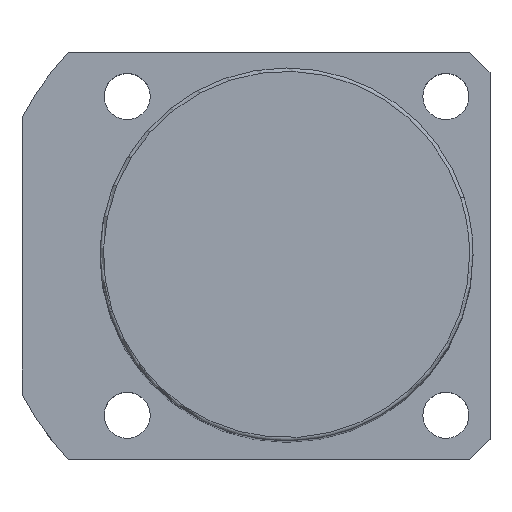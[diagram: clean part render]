
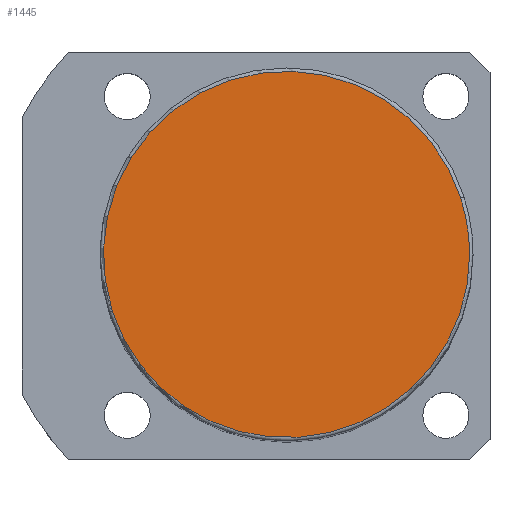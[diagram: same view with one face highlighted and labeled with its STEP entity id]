
A CAD part, top view. The second image highlights one B-rep face of the part: STEP entity #1445.
In plain terms, the highlighted planar face has unit normal (0, 0, 1).
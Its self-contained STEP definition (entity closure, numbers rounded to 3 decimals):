
#1378=CARTESIAN_POINT('',(25.679,8.343,131.0));
#1379=VERTEX_POINT('',#1378);
#1397=CARTESIAN_POINT('',(-25.679,-8.343,131.0));
#1398=VERTEX_POINT('',#1397);
#1406=CARTESIAN_POINT('',(0.0,0.0,131.0));
#1407=DIRECTION('',(0.0,0.0,1.0));
#1408=DIRECTION('',(1.0,0.0,0.0));
#1409=AXIS2_PLACEMENT_3D('',#1406,#1407,#1408);
#1410=CIRCLE('',#1409,27.0);
#1411=EDGE_CURVE('no 1908',#1379,#1398,#1410,.T.);
#1421=CARTESIAN_POINT('',(27.0,0.0,131.0));
#1422=VERTEX_POINT('',#1421);
#1423=CARTESIAN_POINT('',(0.0,0.0,131.0));
#1424=DIRECTION('',(0.0,0.0,1.0));
#1425=DIRECTION('',(1.0,0.0,0.0));
#1426=AXIS2_PLACEMENT_3D('',#1423,#1424,#1425);
#1427=CIRCLE('',#1426,27.0);
#1428=EDGE_CURVE('no 1917',#1422,#1379,#1427,.T.);
#1429=ORIENTED_EDGE('',*,*,#1428,.T.);
#1430=ORIENTED_EDGE('',*,*,#1411,.T.);
#1431=CARTESIAN_POINT('',(0.0,0.0,131.0));
#1432=DIRECTION('',(0.0,0.0,1.0));
#1433=DIRECTION('',(1.0,0.0,0.0));
#1434=AXIS2_PLACEMENT_3D('',#1431,#1432,#1433);
#1435=CIRCLE('',#1434,27.0);
#1436=EDGE_CURVE('no 1923',#1398,#1422,#1435,.T.);
#1437=ORIENTED_EDGE('',*,*,#1436,.T.);
#1438=EDGE_LOOP('',(#1429,#1430,#1437));
#1439=FACE_OUTER_BOUND('',#1438,.T.);
#1440=CARTESIAN_POINT('',(0.0,0.0,131.0));
#1441=DIRECTION('',(0.0,0.0,1.0));
#1442=DIRECTION('',(1.0,0.0,0.0));
#1443=AXIS2_PLACEMENT_3D('',#1440,#1441,#1442);
#1444=PLANE('',#1443);
#1445=ADVANCED_FACE('no 1910',(#1439),#1444,.T.);
